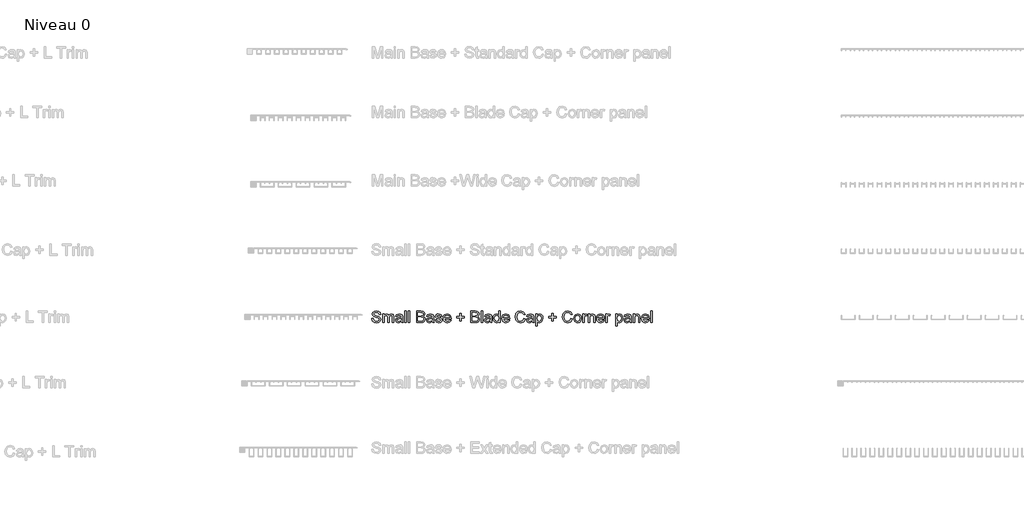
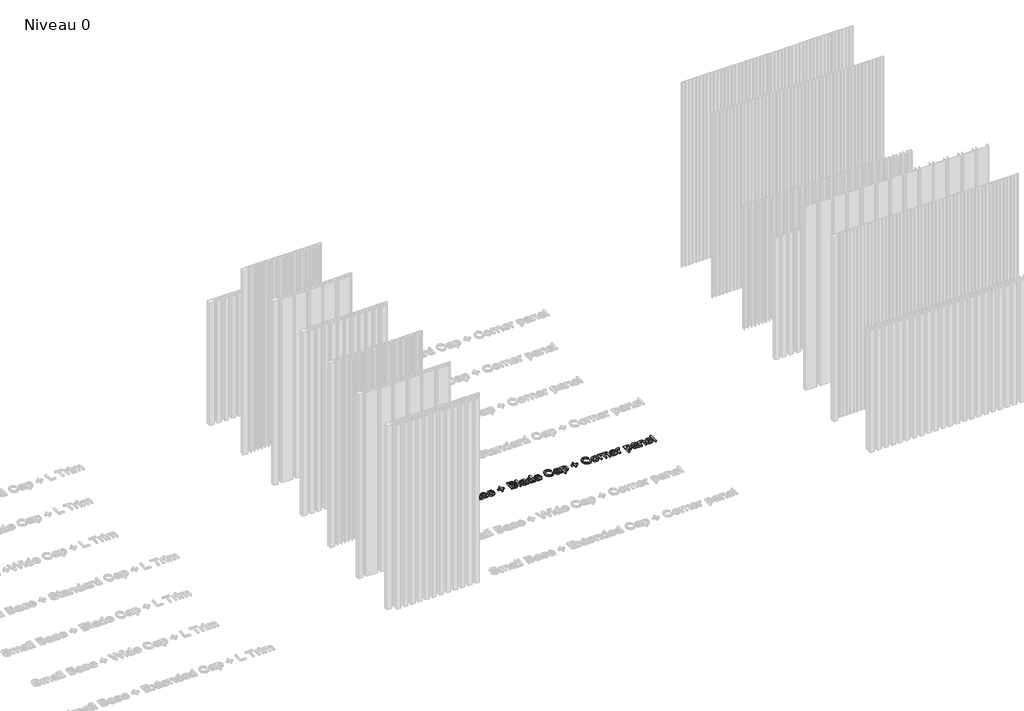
# One storey, part 12 of 25: 1 proxy.
"""IFC4 building model written with IfcOpenShell, lengths in millimetres."""

from ifc_helpers import new_model, si_unit, origin, origin_with_axes, place, context, project, spatial, polyline, outline, extrude, element, save

model = new_model("IFC4")

# Units and contexts
model_context = context("Model", 3, world=origin())
ifc_project = project(units=[si_unit("LENGTHUNIT", "METRE", prefix="MILLI")], contexts=[model_context])

# Site, building, storey
site = spatial("IfcSite", under=ifc_project)
building = spatial("IfcBuilding", under=site)
storey = spatial("IfcBuildingStorey", under=building, Name="Niveau 0", Elevation=0.0)

# Proxy
placement = place(None, origin())
element("IfcBuildingElementProxy", 1, Name="70mm Arial", ObjectType="70mm Arial", at=placement, inside=storey, context=model_context, shape_type="SweptSolid", body=[
    extrude(outline(polyline([(3882.8802856, 2910.8444664), (3891.6702128, 2910.8444664), (3894.5029041, 2902.0459554), (3901.4215382, 2896.4835796), (3911.9625836, 2894.363353), (3921.1473708, 2895.9685448), (3927.0788548, 2900.3806762), (3929.0274031, 2906.2778246), (3927.5681379, 2911.7629451), (3921.5937343, 2915.7544648), (3908.7951196, 2919.1107748), (3895.0179389, 2923.445651), (3887.5413505, 2929.9865929), (3885.0777674, 2938.7250166), (3888.1250566, 2948.673772), (3897.0265746, 2955.695413), (3910.0569549, 2958.0903248), (3923.9628943, 2955.5838221), (3933.2335206, 2948.2188246), (3936.7185893, 2937.2142478), (3927.9286622, 2937.2142478), (3922.9499925, 2946.2445245), (3910.4003114, 2949.3003976), (3897.8162946, 2946.2788602), (3893.8676945, 2938.982534), (3896.6660503, 2932.8879556), (3911.0183532, 2927.9779572), (3926.5724039, 2923.5658258), (3935.0790619, 2916.4411778), (3937.8173302, 2906.5010063), (3934.6670341, 2895.9857126), (3925.6024217, 2888.3116942), (3912.3059401, 2885.5734259), (3896.6059629, 2888.526292), (3886.6743753, 2897.4192261), (3882.8802856, 2910.8444664)])), origin_with_axes(), (0.0, 0.0, 1.0), 10.0),
    extrude(outline(polyline([(3949.9034801, 2886.6721668), (3949.9034801, 2938.3129887), (3958.6934072, 2938.3129887), (3958.6934072, 2929.8149146), (3964.7364821, 2936.7764683), (3973.3375631, 2939.4117296), (3982.1446581, 2936.7249648), (3986.9859852, 2929.1968729), (3993.8445318, 2936.8580154), (4002.5057003, 2939.4117296), (4013.9995601, 2935.1626926), (4018.0254154, 2922.0722249), (4018.0254154, 2886.6721668), (4009.2354882, 2886.6721668), (4009.2354882, 2918.2953031), (4008.4200165, 2925.6345489), (4005.4671503, 2929.2483764), (4000.4455611, 2930.6218025), (3991.8015605, 2927.1023981), (3988.3594113, 2915.8231361), (3988.3594113, 2886.6721668), (3979.5694841, 2886.6721668), (3979.5694841, 2919.2738692), (3977.5350967, 2927.7891111), (3970.8653961, 2930.6218025), (3964.3587899, 2928.7333416), (3960.0324977, 2923.2053015), (3958.6934072, 2912.7157595), (3958.6934072, 2886.6721668), (3949.9034801, 2886.6721668)])), origin_with_axes(), (0.0, 0.0, 1.0), 10.0),
    extrude(outline(polyline([(4064.1725329, 2893.2646121), (4055.648707, 2887.3073764), (4046.2321542, 2885.5734259), (4033.4678753, 2889.7452077), (4029.0128243, 2900.4064279), (4030.6952713, 2907.3593976), (4035.1159866, 2912.4067386), (4041.2706524, 2915.2909335), (4048.8759995, 2916.6128561), (4064.1210294, 2919.6343936), (4064.1725329, 2921.5915258), (4061.7518693, 2928.0809642), (4052.0348796, 2930.6218025), (4043.1419455, 2928.9307716), (4038.9014923, 2922.9306162), (4030.1115652, 2924.0293571), (4033.9142387, 2932.6132703), (4041.5710893, 2937.6434435), (4053.1679561, 2939.4117296), (4063.8205924, 2937.8494574), (4069.8379156, 2933.9266091), (4072.5332643, 2927.9607894), (4072.96246, 2920.2696031), (4072.96246, 2909.3336977), (4073.4088235, 2894.0629161), (4075.1599418, 2886.6721668), (4066.3700146, 2886.6721668), (4064.1725329, 2893.2646121)]), holes=[polyline([(4064.1725329, 2910.8444664), (4049.9919082, 2908.1491177), (4042.4294807, 2906.7241881), (4039.0044993, 2904.4065315), (4037.8027514, 2901.0244697), (4040.420845, 2896.2689818), (4048.1034473, 2894.363353), (4056.9963814, 2896.4664118), (4062.7304354, 2901.5566723), (4064.1210294, 2908.3551316), (4064.1725329, 2910.8444664)])]), origin_with_axes(), (0.0, 0.0, 1.0), 10.0),
    extrude(outline(polyline([(4085.0486098, 2886.6721668), (4085.0486098, 2956.9915839), (4093.8385369, 2956.9915839), (4093.8385369, 2886.6721668), (4085.0486098, 2886.6721668)])), origin_with_axes(), (0.0, 0.0, 1.0), 10.0),
    extrude(outline(polyline([(4107.0234276, 2886.6721668), (4107.0234276, 2956.9915839), (4115.8133548, 2956.9915839), (4115.8133548, 2886.6721668), (4107.0234276, 2886.6721668)])), origin_with_axes(), (0.0, 0.0, 1.0), 10.0),
    extrude(outline(polyline([(4157.5655087, 2886.6721668), (4157.5655087, 2956.9915839), (4184.3988214, 2956.9915839), (4197.5407926, 2954.9228608), (4205.3006501, 2948.5621811), (4208.1075897, 2939.5662401), (4205.7470136, 2931.3514351), (4198.6137817, 2925.128098), (4207.2749502, 2918.5699883), (4210.3050715, 2907.6340829), (4208.2363484, 2898.1831944), (4203.1117522, 2891.4534064), (4195.4634856, 2887.8824985), (4184.1928075, 2886.6721668), (4157.5655087, 2886.6721668)]), holes=[polyline([(4166.3554358, 2895.4620939), (4184.3816536, 2895.4620939), (4190.9054276, 2895.8054505), (4196.4248838, 2897.7196631), (4200.0816309, 2901.6253436), (4201.5151444, 2907.5482437), (4199.8326974, 2914.3810387), (4194.3819125, 2918.4583974), (4183.5232623, 2919.6343936), (4166.3554358, 2919.6343936), (4166.3554358, 2895.4620939)]), polyline([(4166.3554358, 2928.4243207), (4182.4073536, 2928.4243207), (4191.7809868, 2929.1797051), (4197.4206178, 2932.4330082), (4199.3176626, 2938.1584783), (4197.5493765, 2943.8925323), (4192.4848677, 2947.283178), (4181.1884379, 2948.2016568), (4166.3554358, 2948.2016568), (4166.3554358, 2928.4243207)])]), origin_with_axes(), (0.0, 0.0, 1.0), 10.0),
    extrude(outline(polyline([(4254.2547072, 2893.2646121), (4245.7308814, 2887.3073764), (4236.3143286, 2885.5734259), (4223.5500496, 2889.7452077), (4219.0949987, 2900.4064279), (4220.7774457, 2907.3593976), (4225.198161, 2912.4067386), (4231.3528267, 2915.2909335), (4238.9581739, 2916.6128561), (4254.2032037, 2919.6343936), (4254.2547072, 2921.5915258), (4251.8340437, 2928.0809642), (4242.1170539, 2930.6218025), (4233.2241198, 2928.9307716), (4228.9836667, 2922.9306162), (4220.1937396, 2924.0293571), (4223.9964131, 2932.6132703), (4231.6532637, 2937.6434435), (4243.2501305, 2939.4117296), (4253.9027668, 2937.8494574), (4259.9200899, 2933.9266091), (4262.6154387, 2927.9607894), (4263.0446343, 2920.2696031), (4263.0446343, 2909.3336977), (4263.4909978, 2894.0629161), (4265.2421161, 2886.6721668), (4256.452189, 2886.6721668), (4254.2547072, 2893.2646121)]), holes=[polyline([(4254.2547072, 2910.8444664), (4240.0740826, 2908.1491177), (4232.511655, 2906.7241881), (4229.0866736, 2904.4065315), (4227.8849258, 2901.0244697), (4230.5030193, 2896.2689818), (4238.1856217, 2894.363353), (4247.0785558, 2896.4664118), (4252.8126098, 2901.5566723), (4254.2032037, 2908.3551316), (4254.2547072, 2910.8444664)])]), origin_with_axes(), (0.0, 0.0, 1.0), 10.0),
    extrude(outline(polyline([(4271.8345615, 2902.0545393), (4280.6244886, 2903.1532802), (4284.6932635, 2896.6295061), (4294.0153933, 2894.363353), (4302.9769987, 2896.44066), (4305.8955291, 2901.3163227), (4302.9598308, 2905.2649228), (4293.9123863, 2907.7714255), (4280.6759921, 2912.071966), (4274.8990185, 2917.0935552), (4272.9333024, 2924.1838676), (4274.5127424, 2930.7333933), (4278.8218668, 2935.7378148), (4284.4099944, 2938.3387405), (4291.9724219, 2939.4117296), (4302.6679778, 2937.6863631), (4309.466437, 2933.0167143), (4312.4879745, 2925.128098), (4303.6980474, 2924.0293571), (4300.3932408, 2928.8792681), (4292.659135, 2930.6218025), (4284.2469, 2928.9565233), (4281.7232295, 2925.0765945), (4282.7704669, 2922.5185884), (4286.0495218, 2920.578624), (4293.6205332, 2918.7073309), (4306.5221548, 2914.5698848), (4312.5137262, 2909.8830681), (4314.6854563, 2902.2433854), (4312.1360341, 2893.8311504), (4304.7796204, 2887.7279881), (4293.8952185, 2885.5734259), (4278.5643495, 2889.7280399), (4271.8345615, 2902.0545393)])), origin_with_axes(), (0.0, 0.0, 1.0), 10.0),
    extrude(outline(polyline([(4360.7295668, 2902.0545393), (4369.3478157, 2900.9557984), (4361.2875212, 2889.6078651), (4346.2742569, 2885.5734259), (4335.9606852, 2887.3138143), (4328.0248574, 2892.5349795), (4322.9646406, 2900.897857), (4321.2779016, 2912.0633821), (4322.9818084, 2923.6044534), (4328.0935287, 2932.2355782), (4335.9220576, 2937.6176918), (4345.77639, 2939.4117296), (4355.3238475, 2937.6219837), (4362.9528003, 2932.252746), (4367.9550758, 2923.6387891), (4369.6225009, 2912.1148856), (4369.5709974, 2909.7457255), (4330.0678288, 2909.7457255), (4335.1237537, 2898.3291209), (4346.4459352, 2894.363353), (4355.0641841, 2896.2003105), (4360.7295668, 2902.0545393)]), holes=[polyline([(4330.0678288, 2918.5356527), (4360.8325738, 2918.5356527), (4357.3131693, 2926.5015241), (4345.7420543, 2930.6218025), (4334.9177397, 2927.3341637), (4330.0678288, 2918.5356527)])]), origin_with_axes(), (0.0, 0.0, 1.0), 10.0),
    extrude(outline(polyline([(4423.4608046, 2897.6595757), (4423.4608046, 2916.3381709), (4404.7822095, 2916.3381709), (4404.7822095, 2925.128098), (4423.4608046, 2925.128098), (4423.4608046, 2943.8066932), (4432.2507318, 2943.8066932), (4432.2507318, 2925.128098), (4450.9293269, 2925.128098), (4450.9293269, 2916.3381709), (4432.2507318, 2916.3381709), (4432.2507318, 2897.6595757), (4423.4608046, 2897.6595757)])), origin_with_axes(), (0.0, 0.0, 1.0), 10.0),
    extrude(outline(polyline([(4491.5827399, 2886.6721668), (4491.5827399, 2956.9915839), (4518.4160527, 2956.9915839), (4531.5580238, 2954.9228608), (4539.3178814, 2948.5621811), (4542.124821, 2939.5662401), (4539.7642448, 2931.3514351), (4532.631013, 2925.128098), (4541.2921814, 2918.5699883), (4544.3223028, 2907.6340829), (4542.2535797, 2898.1831944), (4537.1289835, 2891.4534064), (4529.4807168, 2887.8824985), (4518.2100388, 2886.6721668), (4491.5827399, 2886.6721668)]), holes=[polyline([(4500.3726671, 2895.4620939), (4518.3988848, 2895.4620939), (4524.9226589, 2895.8054505), (4530.4421151, 2897.7196631), (4534.0988621, 2901.6253436), (4535.5323756, 2907.5482437), (4533.8499286, 2914.3810387), (4528.3991437, 2918.4583974), (4517.5404935, 2919.6343936), (4500.3726671, 2919.6343936), (4500.3726671, 2895.4620939)]), polyline([(4500.3726671, 2928.4243207), (4516.4245848, 2928.4243207), (4525.798218, 2929.1797051), (4531.437849, 2932.4330082), (4533.3348938, 2938.1584783), (4531.5666077, 2943.8925323), (4526.5020989, 2947.283178), (4515.2056691, 2948.2016568), (4500.3726671, 2948.2016568), (4500.3726671, 2928.4243207)])]), origin_with_axes(), (0.0, 0.0, 1.0), 10.0),
    extrude(outline(polyline([(4555.3097117, 2886.6721668), (4555.3097117, 2956.9915839), (4564.0996388, 2956.9915839), (4564.0996388, 2886.6721668), (4555.3097117, 2886.6721668)])), origin_with_axes(), (0.0, 0.0, 1.0), 10.0),
    extrude(outline(polyline([(4610.2467563, 2893.2646121), (4601.7229305, 2887.3073764), (4592.3063777, 2885.5734259), (4579.5420987, 2889.7452077), (4575.0870478, 2900.4064279), (4576.7694947, 2907.3593976), (4581.1902101, 2912.4067386), (4587.3448758, 2915.2909335), (4594.9502229, 2916.6128561), (4610.1952528, 2919.6343936), (4610.2467563, 2921.5915258), (4607.8260928, 2928.0809642), (4598.109103, 2930.6218025), (4589.2161689, 2928.9307716), (4584.9757158, 2922.9306162), (4576.1857886, 2924.0293571), (4579.9884622, 2932.6132703), (4587.6453128, 2937.6434435), (4599.2421796, 2939.4117296), (4609.8948159, 2937.8494574), (4615.912139, 2933.9266091), (4618.6074878, 2927.9607894), (4619.0366834, 2920.2696031), (4619.0366834, 2909.3336977), (4619.4830469, 2894.0629161), (4621.2341652, 2886.6721668), (4612.4442381, 2886.6721668), (4610.2467563, 2893.2646121)]), holes=[polyline([(4610.2467563, 2910.8444664), (4596.0661317, 2908.1491177), (4588.5037041, 2906.7241881), (4585.0787227, 2904.4065315), (4583.8769749, 2901.0244697), (4586.4950684, 2896.2689818), (4594.1776708, 2894.363353), (4603.0706049, 2896.4664118), (4608.8046589, 2901.5566723), (4610.1952528, 2908.3551316), (4610.2467563, 2910.8444664)])]), origin_with_axes(), (0.0, 0.0, 1.0), 10.0),
    extrude(outline(polyline([(4662.9863191, 2886.6721668), (4662.9863191, 2894.964227), (4657.1707179, 2887.9211262), (4649.1318832, 2885.5734259), (4638.2474812, 2888.9726555), (4630.556295, 2898.4578796), (4627.8266106, 2912.4410743), (4630.3416972, 2926.4328528), (4637.878373, 2936.0640035), (4649.0975475, 2939.4117296), (4657.2007616, 2937.0168178), (4662.9863191, 2930.7934807), (4662.9863191, 2956.9915839), (4671.7762463, 2956.9915839), (4671.7762463, 2886.6721668), (4662.9863191, 2886.6721668)]), holes=[polyline([(4636.6165377, 2912.4754099), (4640.5823056, 2898.8699075), (4649.938771, 2894.363353), (4659.1836456, 2898.6638936), (4662.9863191, 2911.8058647), (4659.1149743, 2926.0723285), (4649.5782467, 2930.6218025), (4640.3247882, 2926.2525906), (4636.6165377, 2912.4754099)])]), origin_with_axes(), (0.0, 0.0, 1.0), 10.0),
    extrude(outline(polyline([(4721.1165795, 2902.0545393), (4729.7348283, 2900.9557984), (4721.6745338, 2889.6078651), (4706.6612696, 2885.5734259), (4696.3476979, 2887.3138143), (4688.4118701, 2892.5349795), (4683.3516532, 2900.897857), (4681.6649143, 2912.0633821), (4683.3688211, 2923.6044534), (4688.4805414, 2932.2355782), (4696.3090703, 2937.6176918), (4706.1634026, 2939.4117296), (4715.7108601, 2937.6219837), (4723.339813, 2932.252746), (4728.3420884, 2923.6387891), (4730.0095136, 2912.1148856), (4729.9580101, 2909.7457255), (4690.4548414, 2909.7457255), (4695.5107663, 2898.3291209), (4706.8329479, 2894.363353), (4715.4511967, 2896.2003105), (4721.1165795, 2902.0545393)]), holes=[polyline([(4690.4548414, 2918.5356527), (4721.2195864, 2918.5356527), (4717.700182, 2926.5015241), (4706.129067, 2930.6218025), (4695.3047524, 2927.3341637), (4690.4548414, 2918.5356527)])]), origin_with_axes(), (0.0, 0.0, 1.0), 10.0),
    extrude(outline(polyline([(4816.810044, 2911.6685221), (4825.5999712, 2909.402369), (4821.5440722, 2899.1596145), (4815.1791005, 2891.6765882), (4806.8183691, 2887.0992165), (4796.7751906, 2885.5734259), (4778.4828715, 2890.1915712), (4767.75298, 2903.565308), (4764.0704812, 2922.364078), (4768.2336791, 2941.4718688), (4780.0708955, 2953.8584556), (4796.9640367, 2958.0903248), (4814.5696427, 2952.6137881), (4824.5012303, 2937.19708), (4815.7113032, 2935.1026052), (4808.5008161, 2945.9097519), (4796.6206802, 2949.3003976), (4782.8692512, 2945.5406437), (4775.1008097, 2935.4459617), (4772.8604084, 2922.3812458), (4775.5128375, 2907.2392229), (4783.7705621, 2897.5651527), (4795.8996314, 2894.363353), (4809.3506235, 2898.7239809), (4816.810044, 2911.6685221)])), origin_with_axes(), (0.0, 0.0, 1.0), 10.0),
    extrude(outline(polyline([(4869.5496069, 2893.2646121), (4861.025781, 2887.3073764), (4851.6092282, 2885.5734259), (4838.8449493, 2889.7452077), (4834.3898983, 2900.4064279), (4836.0723453, 2907.3593976), (4840.4930606, 2912.4067386), (4846.6477264, 2915.2909335), (4854.2530735, 2916.6128561), (4869.4981034, 2919.6343936), (4869.5496069, 2921.5915258), (4867.1289433, 2928.0809642), (4857.4119536, 2930.6218025), (4848.5190195, 2928.9307716), (4844.2785664, 2922.9306162), (4835.4886392, 2924.0293571), (4839.2913128, 2932.6132703), (4846.9481634, 2937.6434435), (4858.5450301, 2939.4117296), (4869.1976664, 2937.8494574), (4875.2149896, 2933.9266091), (4877.9103384, 2927.9607894), (4878.339534, 2920.2696031), (4878.339534, 2909.3336977), (4878.7858975, 2894.0629161), (4880.5370158, 2886.6721668), (4871.7470887, 2886.6721668), (4869.5496069, 2893.2646121)]), holes=[polyline([(4869.5496069, 2910.8444664), (4855.3689822, 2908.1491177), (4847.8065547, 2906.7241881), (4844.3815733, 2904.4065315), (4843.1798255, 2901.0244697), (4845.797919, 2896.2689818), (4853.4805213, 2894.363353), (4862.3734554, 2896.4664118), (4868.1075095, 2901.5566723), (4869.4981034, 2908.3551316), (4869.5496069, 2910.8444664)])]), origin_with_axes(), (0.0, 0.0, 1.0), 10.0),
    extrude(outline(polyline([(4890.4256838, 2866.8948307), (4890.4256838, 2938.3129887), (4899.215611, 2938.3129887), (4899.215611, 2929.6947398), (4905.2930215, 2936.9824822), (4913.4992426, 2939.4117296), (4924.6411619, 2936.0125), (4931.9203203, 2926.4328528), (4934.3753195, 2912.8874378), (4931.6027156, 2898.6467257), (4923.551005, 2888.9469038), (4912.4348373, 2885.5734259), (4904.7865706, 2887.8309951), (4899.215611, 2893.5392974), (4899.215611, 2866.8948307), (4890.4256838, 2866.8948307)]), holes=[polyline([(4899.215611, 2912.0805499), (4903.0182845, 2898.6896453), (4912.2459912, 2894.363353), (4921.662544, 2898.8441557), (4925.5853924, 2912.7329273), (4921.7569671, 2926.1581676), (4912.6065156, 2930.6218025), (4903.2758019, 2925.8748985), (4899.215611, 2912.0805499)])]), origin_with_axes(), (0.0, 0.0, 1.0), 10.0),
    extrude(outline(polyline([(4989.3123641, 2897.6595757), (4989.3123641, 2916.3381709), (4970.633769, 2916.3381709), (4970.633769, 2925.128098), (4989.3123641, 2925.128098), (4989.3123641, 2943.8066932), (4998.1022913, 2943.8066932), (4998.1022913, 2925.128098), (5016.7808864, 2925.128098), (5016.7808864, 2916.3381709), (4998.1022913, 2916.3381709), (4998.1022913, 2897.6595757), (4989.3123641, 2897.6595757)])), origin_with_axes(), (0.0, 0.0, 1.0), 10.0),
    extrude(outline(polyline([(5106.8776396, 2911.6685221), (5115.6675667, 2909.402369), (5111.6116677, 2899.1596145), (5105.2466961, 2891.6765882), (5096.8859646, 2887.0992165), (5086.8427861, 2885.5734259), (5068.5504671, 2890.1915712), (5057.8205755, 2903.565308), (5054.1380768, 2922.364078), (5058.3012747, 2941.4718688), (5070.138491, 2953.8584556), (5087.0316322, 2958.0903248), (5104.6372383, 2952.6137881), (5114.5688259, 2937.19708), (5105.7788987, 2935.1026052), (5098.5684116, 2945.9097519), (5086.6882757, 2949.3003976), (5072.9368467, 2945.5406437), (5065.1684053, 2935.4459617), (5062.9280039, 2922.3812458), (5065.5804331, 2907.2392229), (5073.8381576, 2897.5651527), (5085.967227, 2894.363353), (5099.418219, 2898.7239809), (5106.8776396, 2911.6685221)])), origin_with_axes(), (0.0, 0.0, 1.0), 10.0),
    extrude(outline(polyline([(5124.4574939, 2912.4925778), (5126.3588307, 2924.9435439), (5132.062841, 2933.6948434), (5147.5482204, 2939.4117296), (5156.7823651, 2937.6713412), (5164.1580925, 2932.450176), (5168.9929817, 2924.1602618), (5170.6046114, 2913.2136265), (5167.7547522, 2897.5737366), (5159.4541081, 2888.723722), (5147.5482204, 2885.5734259), (5138.2024849, 2887.3073764), (5130.8353414, 2892.5092278), (5126.0519558, 2900.9729662), (5124.4574939, 2912.4925778)]), holes=[polyline([(5133.247421, 2912.5097456), (5137.3161959, 2898.8870753), (5147.5482204, 2894.363353), (5157.7459094, 2898.912827), (5161.8146842, 2912.7844308), (5157.7201576, 2926.0980802), (5147.5482204, 2930.6218025), (5137.3161959, 2926.115248), (5133.247421, 2912.5097456)])]), origin_with_axes(), (0.0, 0.0, 1.0), 10.0),
    extrude(outline(polyline([(5180.4932794, 2886.6721668), (5180.4932794, 2938.3129887), (5188.1844656, 2938.3129887), (5188.1844656, 2930.673306), (5193.6438344, 2937.7121148), (5199.1375389, 2939.4117296), (5207.9618017, 2936.699213), (5205.0261034, 2928.8191807), (5198.8456859, 2930.6218025), (5193.8756001, 2928.887852), (5190.7081361, 2924.0808606), (5189.2832065, 2913.8145004), (5189.2832065, 2886.6721668), (5180.4932794, 2886.6721668)])), origin_with_axes(), (0.0, 0.0, 1.0), 10.0),
    extrude(outline(polyline([(5213.4555062, 2886.6721668), (5213.4555062, 2938.3129887), (5222.2454333, 2938.3129887), (5222.2454333, 2931.1025016), (5228.9666373, 2937.3344226), (5238.1428406, 2939.4117296), (5246.4434847, 2937.7378665), (5252.1088674, 2933.342903), (5254.7441287, 2926.8792163), (5255.2076601, 2918.3811422), (5255.2076601, 2886.6721668), (5246.4177329, 2886.6721668), (5246.4177329, 2917.1965622), (5245.4048312, 2924.9735876), (5241.8253394, 2929.085282), (5235.7908484, 2930.6218025), (5226.2541208, 2927.1710694), (5222.2454333, 2914.0720178), (5222.2454333, 2886.6721668), (5213.4555062, 2886.6721668)])), origin_with_axes(), (0.0, 0.0, 1.0), 10.0),
    extrude(outline(polyline([(5303.4492524, 2902.0545393), (5312.0675012, 2900.9557984), (5304.0072067, 2889.6078651), (5288.9939425, 2885.5734259), (5278.6803708, 2887.3138143), (5270.744543, 2892.5349795), (5265.6843261, 2900.897857), (5263.9975872, 2912.0633821), (5265.701494, 2923.6044534), (5270.8132143, 2932.2355782), (5278.6417432, 2937.6176918), (5288.4960755, 2939.4117296), (5298.043533, 2937.6219837), (5305.6724859, 2932.252746), (5310.6747613, 2923.6387891), (5312.3421865, 2912.1148856), (5312.290683, 2909.7457255), (5272.7875143, 2909.7457255), (5277.8434392, 2898.3291209), (5289.1656208, 2894.363353), (5297.7838696, 2896.2003105), (5303.4492524, 2902.0545393)]), holes=[polyline([(5272.7875143, 2918.5356527), (5303.5522593, 2918.5356527), (5300.0328549, 2926.5015241), (5288.4617399, 2930.6218025), (5277.6374253, 2927.3341637), (5272.7875143, 2918.5356527)])]), origin_with_axes(), (0.0, 0.0, 1.0), 10.0),
    extrude(outline(polyline([(5321.1321136, 2886.6721668), (5321.1321136, 2938.3129887), (5328.8232998, 2938.3129887), (5328.8232998, 2930.673306), (5334.2826687, 2937.7121148), (5339.7763731, 2939.4117296), (5348.6006359, 2936.699213), (5345.6649376, 2928.8191807), (5339.4845201, 2930.6218025), (5334.5144343, 2928.887852), (5331.3469703, 2924.0808606), (5329.9220407, 2913.8145004), (5329.9220407, 2886.6721668), (5321.1321136, 2886.6721668)])), origin_with_axes(), (0.0, 0.0, 1.0), 10.0),
    extrude(outline(polyline([(5381.5628627, 2866.8948307), (5381.5628627, 2938.3129887), (5390.3527898, 2938.3129887), (5390.3527898, 2929.6947398), (5396.4302004, 2936.9824822), (5404.6364214, 2939.4117296), (5415.7783408, 2936.0125), (5423.0574992, 2926.4328528), (5425.5124984, 2912.8874378), (5422.7398944, 2898.6467257), (5414.6881838, 2888.9469038), (5403.5720162, 2885.5734259), (5395.9237495, 2887.8309951), (5390.3527898, 2893.5392974), (5390.3527898, 2866.8948307), (5381.5628627, 2866.8948307)]), holes=[polyline([(5390.3527898, 2912.0805499), (5394.1554634, 2898.6896453), (5403.3831701, 2894.363353), (5412.7997229, 2898.8441557), (5416.7225712, 2912.7329273), (5412.8941459, 2926.1581676), (5403.7436944, 2930.6218025), (5394.4129808, 2925.8748985), (5390.3527898, 2912.0805499)])]), origin_with_axes(), (0.0, 0.0, 1.0), 10.0),
    extrude(outline(polyline([(5468.3633932, 2893.2646121), (5459.8395673, 2887.3073764), (5450.4230145, 2885.5734259), (5437.6587356, 2889.7452077), (5433.2036846, 2900.4064279), (5434.8861316, 2907.3593976), (5439.3068469, 2912.4067386), (5445.4615127, 2915.2909335), (5453.0668598, 2916.6128561), (5468.3118897, 2919.6343936), (5468.3633932, 2921.5915258), (5465.9427296, 2928.0809642), (5456.2257399, 2930.6218025), (5447.3328058, 2928.9307716), (5443.0923526, 2922.9306162), (5434.3024255, 2924.0293571), (5438.1050991, 2932.6132703), (5445.7619497, 2937.6434435), (5457.3588164, 2939.4117296), (5468.0114527, 2937.8494574), (5474.0287759, 2933.9266091), (5476.7241246, 2927.9607894), (5477.1533203, 2920.2696031), (5477.1533203, 2909.3336977), (5477.5996838, 2894.0629161), (5479.3508021, 2886.6721668), (5470.5608749, 2886.6721668), (5468.3633932, 2893.2646121)]), holes=[polyline([(5468.3633932, 2910.8444664), (5454.1827685, 2908.1491177), (5446.620341, 2906.7241881), (5443.1953596, 2904.4065315), (5441.9936117, 2901.0244697), (5444.6117053, 2896.2689818), (5452.2943076, 2894.363353), (5461.1872417, 2896.4664118), (5466.9212957, 2901.5566723), (5468.3118897, 2908.3551316), (5468.3633932, 2910.8444664)])]), origin_with_axes(), (0.0, 0.0, 1.0), 10.0),
    extrude(outline(polyline([(5489.2394701, 2886.6721668), (5489.2394701, 2938.3129887), (5498.0293973, 2938.3129887), (5498.0293973, 2931.1025016), (5504.7506013, 2937.3344226), (5513.9268045, 2939.4117296), (5522.2274486, 2937.7378665), (5527.8928313, 2933.342903), (5530.5280927, 2926.8792163), (5530.991624, 2918.3811422), (5530.991624, 2886.6721668), (5522.2016969, 2886.6721668), (5522.2016969, 2917.1965622), (5521.1887951, 2924.9735876), (5517.6093033, 2929.085282), (5511.5748123, 2930.6218025), (5502.0380847, 2927.1710694), (5498.0293973, 2914.0720178), (5498.0293973, 2886.6721668), (5489.2394701, 2886.6721668)])), origin_with_axes(), (0.0, 0.0, 1.0), 10.0),
    extrude(outline(polyline([(5579.2332163, 2902.0545393), (5587.8514652, 2900.9557984), (5579.7911707, 2889.6078651), (5564.7779065, 2885.5734259), (5554.4643347, 2887.3138143), (5546.5285069, 2892.5349795), (5541.4682901, 2900.897857), (5539.7815512, 2912.0633821), (5541.4854579, 2923.6044534), (5546.5971783, 2932.2355782), (5554.4257071, 2937.6176918), (5564.2800395, 2939.4117296), (5573.827497, 2937.6219837), (5581.4564498, 2932.252746), (5586.4587253, 2923.6387891), (5588.1261504, 2912.1148856), (5588.0746469, 2909.7457255), (5548.5714783, 2909.7457255), (5553.6274032, 2898.3291209), (5564.9495847, 2894.363353), (5573.5678336, 2896.2003105), (5579.2332163, 2902.0545393)]), holes=[polyline([(5548.5714783, 2918.5356527), (5579.3362233, 2918.5356527), (5575.8168189, 2926.5015241), (5564.2457038, 2930.6218025), (5553.4213893, 2927.3341637), (5548.5714783, 2918.5356527)])]), origin_with_axes(), (0.0, 0.0, 1.0), 10.0),
    extrude(outline(polyline([(5596.9160776, 2886.6721668), (5596.9160776, 2956.9915839), (5605.7060047, 2956.9915839), (5605.7060047, 2886.6721668), (5596.9160776, 2886.6721668)])), origin_with_axes(), (0.0, 0.0, 1.0), 10.0),
])

save(model, "model.ifc")
